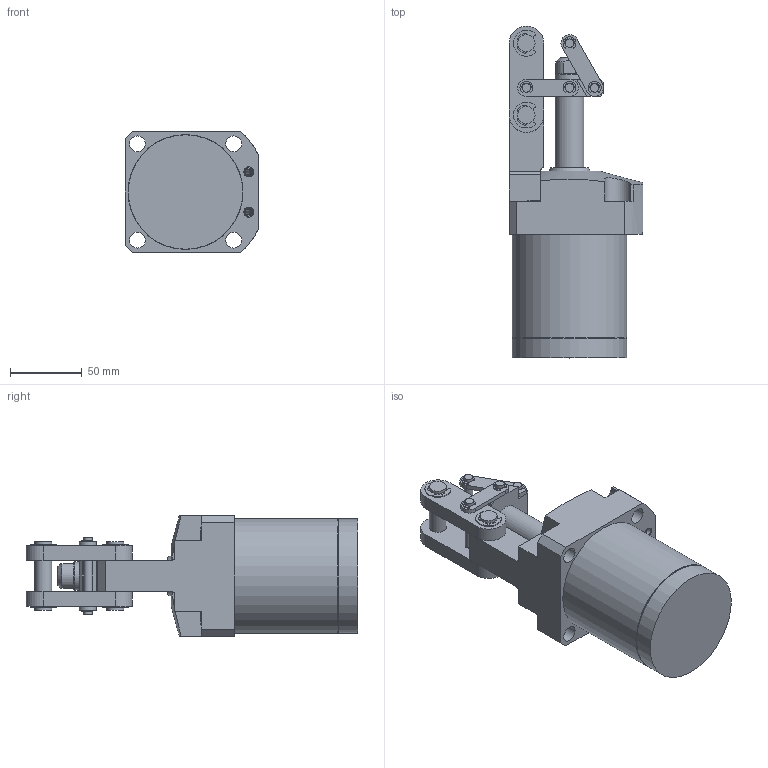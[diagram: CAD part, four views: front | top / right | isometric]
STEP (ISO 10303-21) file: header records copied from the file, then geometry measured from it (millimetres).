
FILE_DESCRIPTION( ( '' ), '1' );
FILE_NAME( 'W:/Catalogue/JLF5H/JLF5H52-50G/JLF5H52-50G.stp', '2008-05-26T02:45:50', ( '機械事業部産業機器グループ' ), ( '豊和工業株式会社' ), 'XStep 1.0', ' ', ' ' );
FILE_SCHEMA( ( 'CONFIG_CONTROL_DESIGN' ) );
Length unit declared in the file: millimetre
Products named in the file (7): Assem1; 1; 2; 3; 4; 5; 6
Bounding box: 93 x 231 x 84 mm (x, y, z)
Volume: 1418114.5 mm3; surface area: 240916 mm2
Topology: 13 solids, 17 shells, 926 faces, 2391 edges, 1591 vertices
Faces by surface type: plane 506, cylinder 386, cone 32, torus 2
Full cylindrical faces by diameter (mm): 2 x2, 4 x20, 5.5 x4, 6 x32, 6.8 x2, 7 x4, 9 x10, 11 x12, 12 x14, 20 x6, 22 x2, 27 x2, 32 x4, 52 x4, 79 x2, 79.7 x2, 80 x2
Entity records: 13910 total; most frequent: CARTESIAN_POINT 2574, DIRECTION 2422, ORIENTED_EDGE 2108, EDGE_CURVE 1054, AXIS2_PLACEMENT_3D 928, VERTEX_POINT 742, EDGE_LOOP 608, LINE 566
